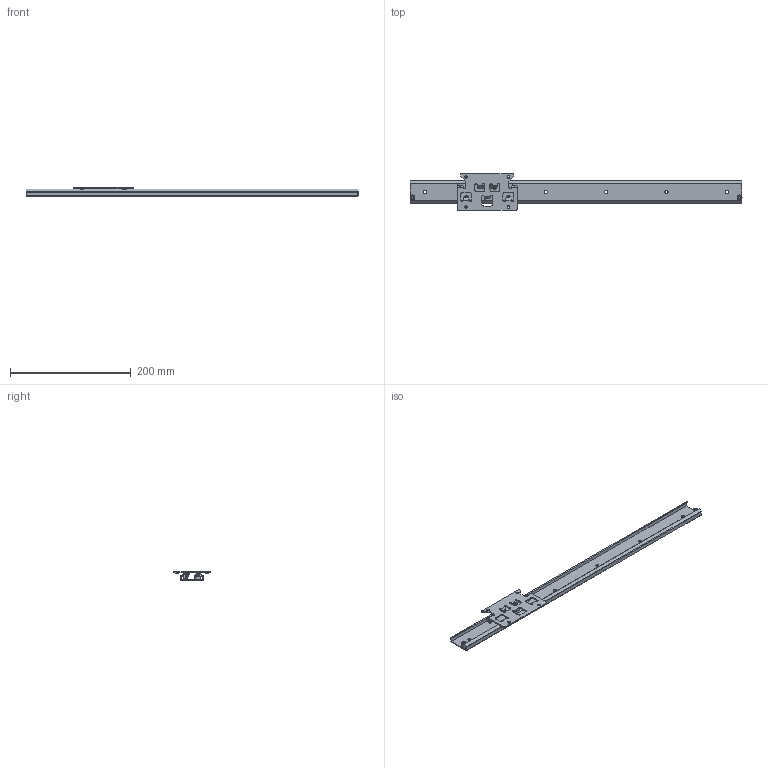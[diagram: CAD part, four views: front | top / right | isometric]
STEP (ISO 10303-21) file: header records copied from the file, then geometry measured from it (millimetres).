
FILE_DESCRIPTION((''),'1');
FILE_NAME('H:/図庫/国内ﾕﾆｯﾄ/ｽﾗｲﾄﾞ/ホームページ用ＣＡＤ図面/3D/37SW/stp', '2018-10-22T23:34:05',(''), (''), 'KCM Version 1.1.1442.0', 'Kubotek KeyCreator', '');
FILE_SCHEMA(('AUTOMOTIVE_DESIGN'));
Length unit declared in the file: millimetre
Bounding box: 550 x 60 x 14.8 mm (x, y, z)
Surface area: 83034.2 mm2 (no closed solid volume)
Topology: 0 solids, 615 shells, 615 faces, 2439 edges, 2138 vertices
Faces by surface type: plane 254, cone 170, cylinder 136, torus 48, bspline 6, sphere 1
Full cylindrical faces by diameter (mm): 2.3 x6, 2.44 x7, 3 x21, 3.5 x1, 4 x7, 4.03 x6, 4.5 x6, 5 x6, 5.5 x2, 5.6 x3, 6 x5, 8 x6, 8.2 x2
Entity records: 26887 total; most frequent: CARTESIAN_POINT 5522, DIRECTION 4793, ORIENTED_EDGE 2740, EDGE_CURVE 2438, VERTEX_POINT 2131, AXIS2_PLACEMENT_3D 1858, CIRCLE 1214, VECTOR 1077
